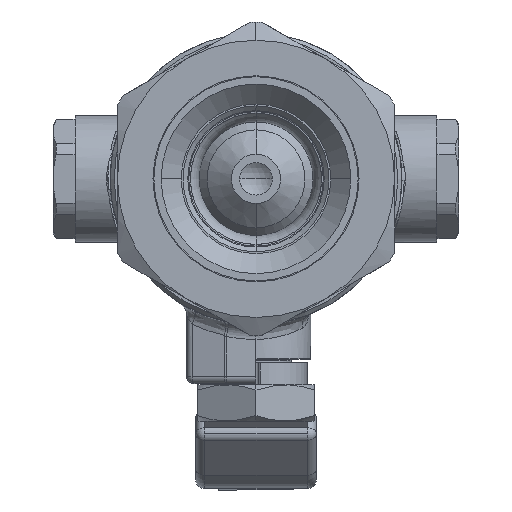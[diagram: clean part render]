
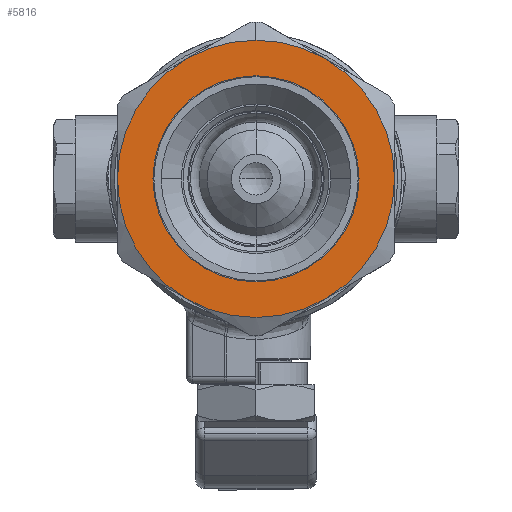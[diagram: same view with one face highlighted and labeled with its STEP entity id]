
A CAD part, left-side view. The second image highlights one B-rep face of the part: STEP entity #5816.
In plain terms, the highlighted planar face has unit normal (-1, 0, 0) as drawn and (1, 0, 0) by its records, which use the part's own axes.
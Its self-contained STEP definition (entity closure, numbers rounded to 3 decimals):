
#442 = CARTESIAN_POINT ( 'NONE',  ( 0., 0., -14.125 ) ) ;
#1296 = AXIS2_PLACEMENT_3D ( 'NONE', #16304, #19026, #25323 ) ;
#1968 = CIRCLE ( 'NONE', #36275, 14.125 ) ;
#3073 = VERTEX_POINT ( 'NONE', #442 ) ;
#3439 = CIRCLE ( 'NONE', #19809, 19. ) ;
#3478 = FACE_BOUND ( 'NONE', #18741, .T. ) ;
#3511 = ORIENTED_EDGE ( 'NONE', *, *, #4933, .F. ) ;
#4535 = DIRECTION ( 'NONE',  ( 0., 0., 1. ) ) ;
#4933 = EDGE_CURVE ( 'NONE', #39295, #25162, #20158, .T. ) ;
#5508 = ORIENTED_EDGE ( 'NONE', *, *, #34208, .F. ) ;
#5816 = ADVANCED_FACE ( 'NONE', ( #24993, #3478 ), #14230, .F. ) ;
#6189 = EDGE_CURVE ( 'NONE', #3073, #28859, #1968, .T. ) ;
#8041 = AXIS2_PLACEMENT_3D ( 'NONE', #11969, #11560, #24150 ) ;
#11293 = DIRECTION ( 'NONE',  ( -1., 0., 0. ) ) ;
#11560 = DIRECTION ( 'NONE',  ( -1., 0., 0. ) ) ;
#11969 = CARTESIAN_POINT ( 'NONE',  ( 0., 0., 0. ) ) ;
#14204 = CARTESIAN_POINT ( 'NONE',  ( 0., 0., 0. ) ) ;
#14230 = PLANE ( 'NONE',  #30068 ) ;
#16304 = CARTESIAN_POINT ( 'NONE',  ( 0., 0., 0. ) ) ;
#16956 = CARTESIAN_POINT ( 'NONE',  ( 0., 19., 0. ) ) ;
#17226 = ORIENTED_EDGE ( 'NONE', *, *, #38337, .T. ) ;
#18741 = EDGE_LOOP ( 'NONE', ( #17226, #35566 ) ) ;
#19026 = DIRECTION ( 'NONE',  ( -1., 0., 0. ) ) ;
#19809 = AXIS2_PLACEMENT_3D ( 'NONE', #14204, #11293, #35786 ) ;
#20158 = CIRCLE ( 'NONE', #8041, 19. ) ;
#20222 = CARTESIAN_POINT ( 'NONE',  ( 0., 0., 19. ) ) ;
#20364 = DIRECTION ( 'NONE',  ( -1., 0., 0. ) ) ;
#21703 = CIRCLE ( 'NONE', #1296, 14.125 ) ;
#24150 = DIRECTION ( 'NONE',  ( 0., 0., 1. ) ) ;
#24993 = FACE_OUTER_BOUND ( 'NONE', #31852, .T. ) ;
#25061 = CARTESIAN_POINT ( 'NONE',  ( 0., 0., 14.125 ) ) ;
#25162 = VERTEX_POINT ( 'NONE', #34220 ) ;
#25323 = DIRECTION ( 'NONE',  ( 0., 0., 1. ) ) ;
#28859 = VERTEX_POINT ( 'NONE', #25061 ) ;
#29906 = DIRECTION ( 'NONE',  ( -1., 0., 0. ) ) ;
#30039 = CARTESIAN_POINT ( 'NONE',  ( 0., 0., 0. ) ) ;
#30068 = AXIS2_PLACEMENT_3D ( 'NONE', #16956, #20364, #4535 ) ;
#31852 = EDGE_LOOP ( 'NONE', ( #3511, #5508 ) ) ;
#33130 = DIRECTION ( 'NONE',  ( 0., 0., 1. ) ) ;
#34208 = EDGE_CURVE ( 'NONE', #25162, #39295, #3439, .T. ) ;
#34220 = CARTESIAN_POINT ( 'NONE',  ( 0., 0., -19. ) ) ;
#35566 = ORIENTED_EDGE ( 'NONE', *, *, #6189, .T. ) ;
#35786 = DIRECTION ( 'NONE',  ( 0., 0., 1. ) ) ;
#36275 = AXIS2_PLACEMENT_3D ( 'NONE', #30039, #29906, #33130 ) ;
#38337 = EDGE_CURVE ( 'NONE', #28859, #3073, #21703, .T. ) ;
#39295 = VERTEX_POINT ( 'NONE', #20222 ) ;
